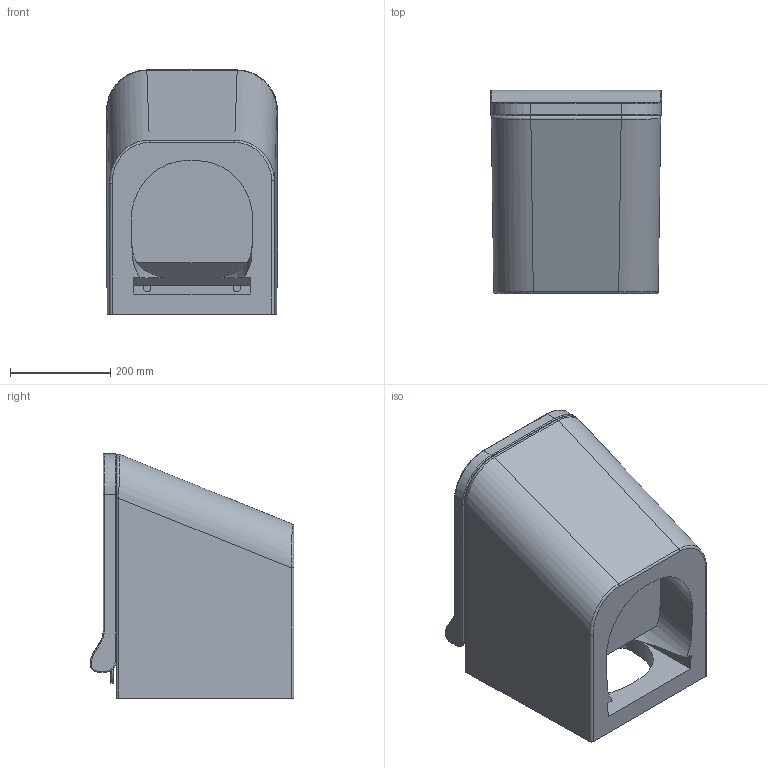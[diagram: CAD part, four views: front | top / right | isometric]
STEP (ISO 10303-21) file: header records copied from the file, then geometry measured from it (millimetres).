
FILE_DESCRIPTION(/* description */ (''),/* implementation_level */ '2;1');
FILE_NAME(/* name */ 'c:\worker\convert-fusion-r05\tmp\job-1\27\output\files\0c119b47-c3b1-4bc3-8244-6edac243371e\04d0df52-3823-4d07-b323-66e316f5116f.stp',/* time_stamp */ '2020-07-02T10:57:42+00:00',/* author */ (''),/* organization */ (''),/* preprocessor_version */ 'ST-DEVELOPER v18.1',/* originating_system */ 'Autodesk Translation Framework v9.3.0.1241',/* authorisation */ '');
FILE_SCHEMA (('AUTOMOTIVE_DESIGN { 1 0 10303 214 3 1 1 }'));
Length unit declared in the file: millimetre
Products named in the file (6): !FONTANA MW -przeróbka; !FONTANA DE v1; 052E-001; 052E-002; 052E-003; PRT0002
Assembly tree (5 placements, depth 3):
  !FONTANA MW -przeróbka
    !FONTANA DE v1
      052E-001
      052E-002
      052E-003
      PRT0002
Bounding box: 342 x 407 x 488.03 mm (x, y, z)
Volume: 29226177.7 mm3; surface area: 1771268.2 mm2
Topology: 5 solids, 5 shells, 353 faces, 874 edges, 538 vertices
Faces by surface type: cylinder 137, plane 102, bspline 69, torus 41, cone 4
Full cylindrical faces by diameter (mm): 9.777 x2, 15 x2, 18 x2, 45.501 x4, 50 x2, 76.698 x1
Entity records: 24190 total; most frequent: CARTESIAN_POINT 15939, ORIENTED_EDGE 1748, DIRECTION 1655, EDGE_CURVE 874, AXIS2_PLACEMENT_3D 640, VERTEX_POINT 538, LINE 375, VECTOR 375
